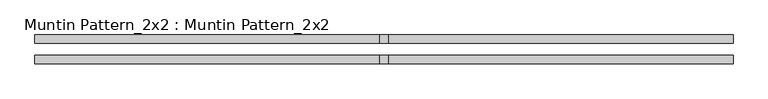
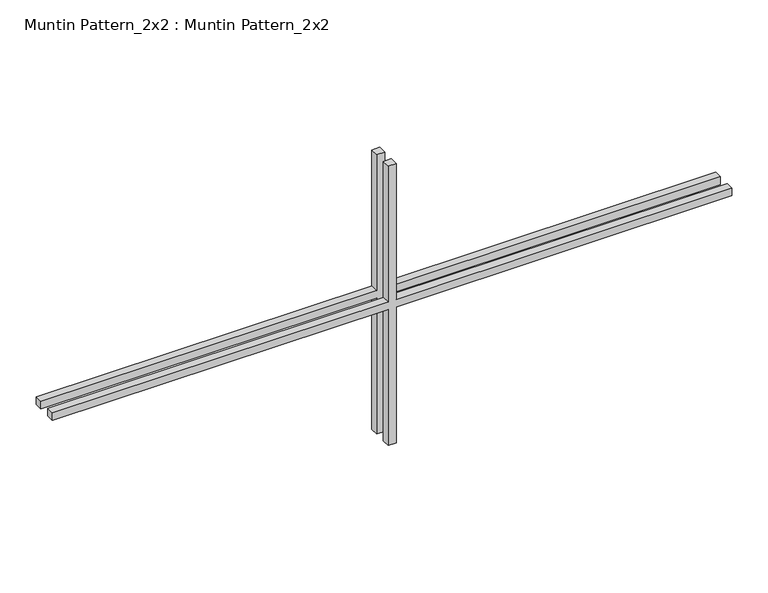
"""IFC4 building model written with IfcOpenShell, lengths in millimetres: proxy geometry, Muntin Pattern_2x2 : Muntin Pattern_2x2."""

from ifc_helpers import new_model, si_unit, frame, origin, place, context, project, spatial, polyline, outline, extrude, source, transform, mapped, element, save


def muntin_pattern_2x2_muntin_pattern_2x2_05dfa543(model_context):
    return source(origin(), model_context, "Body", "SweptSolid", [
        extrude(outline(polyline([(241.2955927, -6.35), (241.2955927, -539.75), (228.5955927, -539.75), (228.5955927, -6.35), (0.0, -6.35), (0.0, 6.35), (228.5955927, 6.35), (228.5955927, 539.75), (241.2955927, 539.75), (241.2955927, 6.35), (469.8911855, 6.35), (469.8911855, -6.35), (241.2955927, -6.35)])), frame((0.0, 9.525, 0.0), z_axis=(0.0, 1.0, 0.0), x_axis=(0.0, 0.0, 1.0)), (0.0, 0.0, 1.0), 12.7),
        extrude(outline(polyline([(241.2955927, -6.35), (241.2955927, -539.75), (228.5955927, -539.75), (228.5955927, -6.35), (0.0, -6.35), (0.0, 6.35), (228.5955927, 6.35), (228.5955927, 539.75), (241.2955927, 539.75), (241.2955927, 6.35), (469.8911855, 6.35), (469.8911855, -6.35), (241.2955927, -6.35)])), frame((0.0, -22.225, 0.0), z_axis=(0.0, 1.0, 0.0), x_axis=(0.0, 0.0, 1.0)), (0.0, 0.0, 1.0), 12.7),
    ])


if __name__ == "__main__":
    model = new_model("IFC4")
    model_context = context("Model", 3, world=origin())
    ifc_project = project(units=[si_unit("LENGTHUNIT", "METRE", prefix="MILLI")], contexts=[model_context])
    site = spatial("IfcSite", under=ifc_project)
    building = spatial("IfcBuilding", under=site)
    placement = place(None, origin())
    muntin_pattern_2x2_muntin_pattern_2x2_shape = muntin_pattern_2x2_muntin_pattern_2x2_05dfa543(model_context)
    element("IfcBuildingElementProxy", 1, Name="Muntin Pattern_2x2 : Muntin Pattern_2x2", ObjectType="Muntin Pattern_2x2 : Muntin Pattern_2x2", at=placement, inside=building, context=model_context, shape_type="MappedRepresentation", body=[
        mapped(muntin_pattern_2x2_muntin_pattern_2x2_shape, transform((0.0, 0.0, 0.0), x_axis=(1.0, 0.0, 0.0), y_axis=(0.0, 1.0, 0.0), z_axis=(0.0, 0.0, 1.0))),
    ])
    save(model, "model.ifc")
